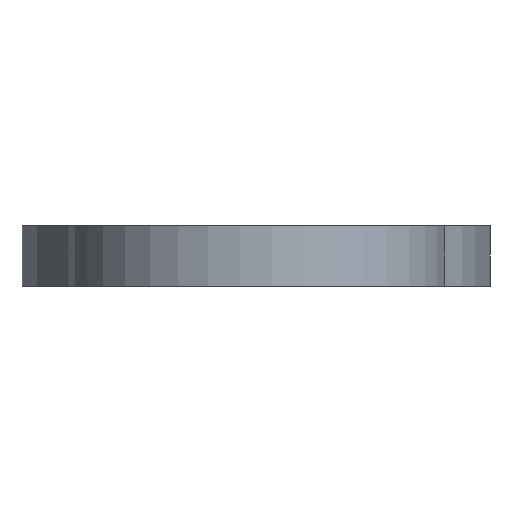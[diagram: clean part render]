
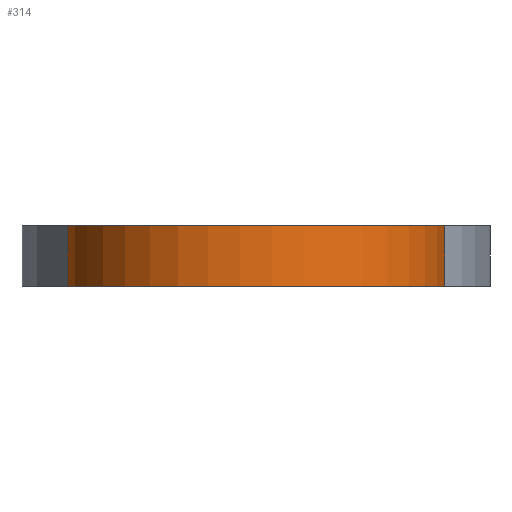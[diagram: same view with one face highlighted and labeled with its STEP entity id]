
A CAD part, front view. The second image highlights one B-rep face of the part: STEP entity #314.
In plain terms, the highlighted cylindrical face has radius 2.5 mm (diameter 5 mm), a partial arc.
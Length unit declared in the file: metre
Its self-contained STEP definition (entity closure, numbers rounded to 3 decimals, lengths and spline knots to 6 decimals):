
#18=CIRCLE('',#363,0.0025);
#19=CIRCLE('',#364,0.0025);
#32=CYLINDRICAL_SURFACE('',#362,0.0025);
#58=ORIENTED_EDGE('',*,*,#138,.T.);
#59=ORIENTED_EDGE('',*,*,#139,.F.);
#60=ORIENTED_EDGE('',*,*,#140,.F.);
#61=ORIENTED_EDGE('',*,*,#136,.T.);
#136=EDGE_CURVE('',#175,#174,#204,.T.);
#138=EDGE_CURVE('',#174,#176,#18,.T.);
#139=EDGE_CURVE('',#177,#176,#206,.T.);
#140=EDGE_CURVE('',#175,#177,#19,.T.);
#174=VERTEX_POINT('',#519);
#175=VERTEX_POINT('',#521);
#176=VERTEX_POINT('',#525);
#177=VERTEX_POINT('',#527);
#204=LINE('',#520,#230);
#206=LINE('',#526,#232);
#230=VECTOR('',#419,1.);
#232=VECTOR('',#425,1.);
#251=EDGE_LOOP('',(#58,#59,#60,#61));
#277=FACE_BOUND('',#251,.T.);
#314=ADVANCED_FACE('',(#277),#32,.T.);
#362=AXIS2_PLACEMENT_3D('',#523,#421,#422);
#363=AXIS2_PLACEMENT_3D('',#524,#423,#424);
#364=AXIS2_PLACEMENT_3D('',#528,#426,#427);
#419=DIRECTION('',(0.,0.,-1.));
#421=DIRECTION('',(0.,0.,-1.));
#422=DIRECTION('',(-1.,0.,0.));
#423=DIRECTION('',(0.,0.,1.));
#424=DIRECTION('',(1.,0.,0.));
#425=DIRECTION('',(0.,0.,-1.));
#426=DIRECTION('',(0.,0.,1.));
#427=DIRECTION('',(1.,0.,0.));
#519=CARTESIAN_POINT('',(-0.0008,-0.015081,0.028));
#520=CARTESIAN_POINT('',(-0.0008,-0.015081,0.0288));
#521=CARTESIAN_POINT('',(-0.0008,-0.015081,0.0288));
#523=CARTESIAN_POINT('',(0.,-0.01745,0.0288));
#524=CARTESIAN_POINT('',(0.,-0.01745,0.028));
#525=CARTESIAN_POINT('',(0.0008,-0.015081,0.028));
#526=CARTESIAN_POINT('',(0.0008,-0.015081,0.0288));
#527=CARTESIAN_POINT('',(0.0008,-0.015081,0.0288));
#528=CARTESIAN_POINT('',(0.,-0.01745,0.0288));
